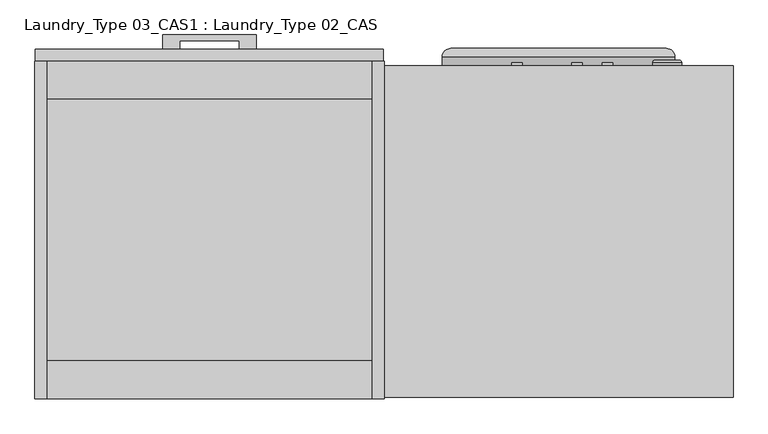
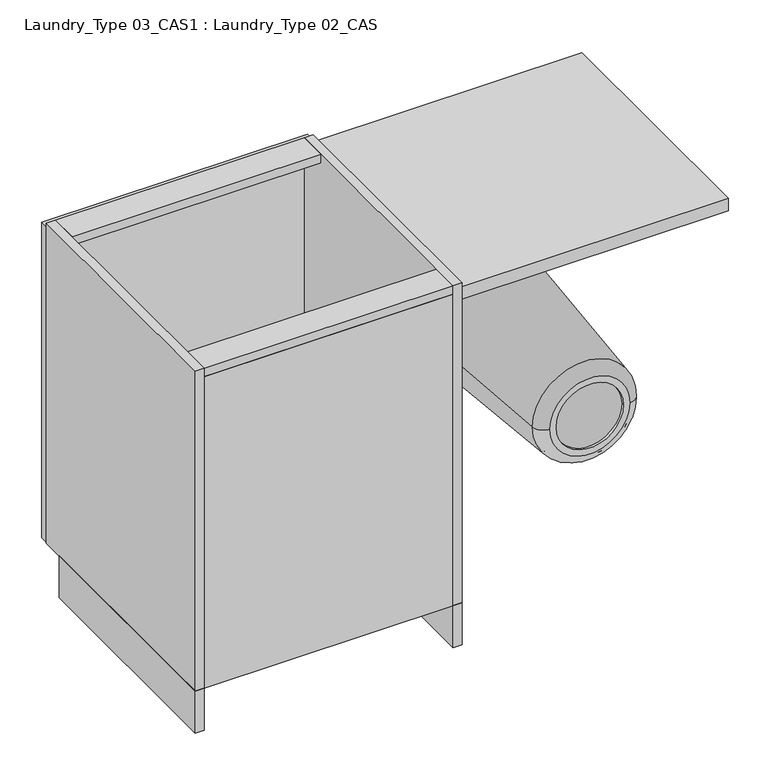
"""IFC4 building model written with IfcOpenShell, lengths in millimetres: furniture geometry, Laundry_Type 03_CAS1 : Laundry_Type 02_CAS."""

from ifc_helpers import new_model, si_unit, point, frame, frame_2d, origin, origin_with_axes, place, context, project, spatial, polyline, circle_curve, ellipse_curve, trimmed, segment, composite_curve, outline, extrude, faceted_brep, source, transform, mapped, element, save
from ifc_brep_helpers import plane_surface, cylinder_surface, revolved_surface, advanced_brep


def laundry_type_03_cas1_laundry_type_02_cas_1c30483e(model_context):
    return source(origin(), model_context, "Body", "SolidModel", [
        extrude(outline(polyline([(1585.0, 53.039124), (1745.0, 53.039124), (1745.0, 28.039124), (1716.0, 28.039124), (1716.0, 43.039124), (1614.0, 43.039124), (1614.0, 28.039124), (1585.0, 28.039124), (1585.0, 53.039124)])), frame((0.0, 0.0, 792.5), z_axis=(0.0, 0.0, 1.0), x_axis=(1.0, 0.0, 0.0)), (0.0, 0.0, 1.0), 15.0),
        extrude(outline(polyline([(1964.0, 28.039124), (1964.0, 8.039124), (1366.0, 8.039124), (1366.0, 28.039124), (1964.0, 28.039124)])), frame((0.0, 0.0, 100.0), z_axis=(0.0, 0.0, 1.0), x_axis=(1.0, 0.0, 0.0)), (0.0, 0.0, 1.0), 750.0),
        extrude(outline(polyline([(1365.0, -41.960876), (1965.0, -41.960876), (1965.0, -571.960876), (1945.0, -571.960876), (1945.0, -61.960876), (1385.0, -61.960876), (1385.0, -571.960876), (1365.0, -571.960876), (1365.0, -41.960876)])), origin_with_axes(), (0.0, 0.0, 1.0), 100.0),
        extrude(outline(polyline([(1945.0, -571.960876), (1945.0, 8.039124), (1965.0, 8.039124), (1965.0, -571.960876), (1945.0, -571.960876)])), frame((0.0, 0.0, 100.0), z_axis=(0.0, 0.0, 1.0), x_axis=(1.0, 0.0, 0.0)), (0.0, 0.0, 1.0), 760.0),
        extrude(outline(polyline([(1365.0, -571.960876), (1365.0, 8.039124), (1385.0, 8.039124), (1385.0, -571.960876), (1365.0, -571.960876)])), frame((0.0, 0.0, 100.0), z_axis=(0.0, 0.0, 1.0), x_axis=(1.0, 0.0, 0.0)), (0.0, 0.0, 1.0), 760.0),
        extrude(outline(polyline([(1945.0, -551.960876), (1945.0, -571.960876), (1385.0, -571.960876), (1385.0, -551.960876), (1945.0, -551.960876)])), frame((0.0, 0.0, 100.0), z_axis=(0.0, 0.0, 1.0), x_axis=(1.0, 0.0, 0.0)), (0.0, 0.0, 1.0), 740.0),
        extrude(outline(polyline([(1945.0, -551.960876), (1385.0, -551.960876), (1385.0, 8.039124), (1945.0, 8.039124), (1945.0, -551.960876)])), frame((0.0, 0.0, 100.0), z_axis=(0.0, 0.0, 1.0), x_axis=(1.0, 0.0, 0.0)), (0.0, 0.0, 1.0), 20.0),
        extrude(outline(polyline([(1945.0, -571.960876), (1385.0, -571.960876), (1385.0, -506.960876), (1945.0, -506.960876), (1945.0, -571.960876)])), frame((0.0, 0.0, 840.0), z_axis=(0.0, 0.0, 1.0), x_axis=(1.0, 0.0, 0.0)), (0.0, 0.0, 1.0), 20.0),
        extrude(outline(polyline([(1385.0, -56.960876), (1385.0, 8.039124), (1945.0, 8.039124), (1945.0, -56.960876), (1385.0, -56.960876)])), frame((0.0, 0.0, 840.0), z_axis=(0.0, 0.0, 1.0), x_axis=(1.0, 0.0, 0.0)), (0.0, 0.0, 1.0), 20.0),
        extrude(outline(polyline([(2465.0, -0.085876), (2450.0, -0.085876), (2450.0, 4.914124), (2465.0, 4.914124), (2465.0, -0.085876)])), frame((0.0, 0.0, 374.6157103), z_axis=(0.0, 0.0, 1.0), x_axis=(1.0, 0.0, 0.0)), (0.0, 0.0, 1.0), 100.0),
        advanced_brep(
        [(2080.0, 29.914124, 425.0), (2450.0, 29.914124, 425.0), (2135.0, 29.914124, 425.0), (2395.0, 29.914124, 425.0), (2065.0, -0.085876, 425.0), (2465.0, -0.085876, 425.0), (2135.0, -0.085876, 425.0), (2395.0, -0.085876, 425.0), (2065.0, 14.91414, 425.0), (2465.0, 14.914124, 425.0)],
        [
            (0, 1, circle_curve(frame((2265.0, 29.914124, 425.0), z_axis=(0.0, 1.0, 0.0), x_axis=(0.9999999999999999, 0.0, 0.0)), 185.0)),
            (1, 0, circle_curve(frame((2265.0, 29.914124, 425.0), z_axis=(0.0, 1.0, 0.0), x_axis=(-0.9999999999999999, 0.0, 0.0)), 185.0)),
            (2, 3, circle_curve(frame((2265.0, 29.914124, 425.0), z_axis=(0.0, -1.0, 0.0), x_axis=(0.9999999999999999, 0.0, 0.0)), 130.0)),
            (3, 2, circle_curve(frame((2265.0, 29.914124, 425.0), z_axis=(0.0, -1.0, 0.0), x_axis=(0.9999999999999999, 0.0, 0.0)), 130.0)),
            (4, 5, circle_curve(frame((2265.0, -0.085876, 425.0), z_axis=(0.0, -1.0, 0.0), x_axis=(0.9999999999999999, 0.0, 0.0)), 200.0)),
            (5, 4, circle_curve(frame((2265.0, -0.085876, 425.0), z_axis=(0.0, -1.0, 0.0), x_axis=(0.9999999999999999, 0.0, 0.0)), 200.0)),
            (6, 7, circle_curve(frame((2265.0, -0.085876, 425.0), z_axis=(0.0, 1.0, 0.0), x_axis=(0.9999999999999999, 0.0, 0.0)), 130.0)),
            (7, 6, circle_curve(frame((2265.0, -0.085876, 425.0), z_axis=(0.0, 1.0, 0.0), x_axis=(0.9999999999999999, 0.0, 0.0)), 130.0)),
            (4, 8),
            (8, 9, circle_curve(frame((2265.0, 14.914124, 425.0), z_axis=(0.0, -1.0, 0.0), x_axis=(0.9999999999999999, 0.0, 0.0)), 200.0)),
            (9, 5),
            (9, 8, circle_curve(frame((2265.0, 14.914124, 425.0), z_axis=(0.0, -1.0, 0.0), x_axis=(0.9999999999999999, 0.0, 0.0)), 200.0)),
            (3, 7),
            (6, 2),
            (8, 0, circle_curve(frame((2080.0, 14.914124, 425.0), z_axis=(0.0, 0.0, -1.0), x_axis=(0.9999999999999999, 0.0, 0.0)), 15.0)),
            (1, 9, circle_curve(frame((2450.0, 14.914124, 425.0), z_axis=(0.0, 0.0, -1.0), x_axis=(-0.9999999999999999, 0.0, 0.0)), 15.0)),
        ],
        [
            plane_surface(frame((2465.0, 29.914124, 425.0), z_axis=(0.0, 1.0, 0.0), x_axis=(0.0, 0.0, 1.0))),
            plane_surface(frame((2465.0, -0.085876, 425.0), z_axis=(0.0, -1.0, 0.0), x_axis=(0.0, 0.0, -1.0))),
            cylinder_surface(frame((2265.0, -0.085876, 425.0), z_axis=(0.0, 0.9999999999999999, 0.0), x_axis=(0.9999999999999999, 0.0, 0.0)), 200.0),
            revolved_surface(polyline([(2395.0, -0.085876, 425.0), (2395.0, 29.914123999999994, 425.0)]), (2265.0, -0.085876, 425.0), (0.0, -0.9999999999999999, 0.0)),
            revolved_surface(trimmed(ellipse_curve(frame((2080.0, 14.914124, 425.0), z_axis=(0.0, 0.0, -1.0), x_axis=(0.9999999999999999, 0.0, 0.0)), 15.0, 15.0), [point((2065.0, 14.914124, 425.0))], [point((2080.0, 29.914124, 425.0))], True, "CARTESIAN"), (2265.0, 29.914124, 425.0), (0.0, 0.9999999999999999, 0.0)),
            revolved_surface(trimmed(ellipse_curve(frame((2450.0, 14.914124, 425.0), z_axis=(0.0, 0.0, 1.0), x_axis=(-0.9999999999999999, 0.0, 0.0)), 15.0, 15.0), [point((2465.0, 14.914124, 425.0))], [point((2450.0, 29.914124, 425.0))], True, "CARTESIAN"), (2265.0, 29.914124, 425.0), (0.0, 0.9999999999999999, 0.0)),
        ],
        [
            (0, [[1, 2], [3, 4]]),
            (1, [[5, 6], [7, 8]]),
            (2, [[9, 10, 11, -5]]),
            (2, [[-11, 12, -9, -6]]),
            (3, [[13, -7, 14, -4]]),
            (3, [[-14, -8, -13, -3]]),
            (4, [[-10, 15, -2, 16]]),
            (5, [[-1, -15, -12, -16]]),
        ],
    ),
        extrude(outline(composite_curve([segment(trimmed(circle_curve(frame_2d((425.0, 2265.0)), 130.0), [point((425.0, 2135.0))], [point((425.0, 2395.0))], False, "CARTESIAN"), True, "CONTINUOUS"), segment(trimmed(circle_curve(frame_2d((425.0, 2265.0)), 130.0), [point((425.0, 2395.0))], [point((425.0, 2135.0))], False, "CARTESIAN"), True, "CONTINUOUS")], self_intersect=False)), frame((0.0, -0.085876, 0.0), z_axis=(0.0, 1.0, 0.0), x_axis=(0.0, 0.0, 1.0)), (0.0, 0.0, 1.0), 30.0),
        extrude(outline(polyline([(2565.0, -570.085876), (1965.0, -570.085876), (1965.0, -0.085876), (2565.0, -0.085876), (2565.0, -570.085876)])), frame((0.0, 0.0, 820.0), z_axis=(0.0, 0.0, 1.0), x_axis=(1.0, 0.0, 0.0)), (0.0, 0.0, 1.0), 30.0),
        faceted_brep([(1970.0, -0.085876, 815.0), (2160.0, -0.085876, 815.0), (2160.0, -0.085876, 705.0), (1970.0, -0.085876, 705.0), (2165.0, -20.085876, 820.0), (1965.0, -20.085876, 820.0), (1965.0, -20.085876, 700.0), (2165.0, -20.085876, 700.0), (2165.0, -2.027875, 820.0), (1965.0, -2.027875, 820.0), (1965.0, -2.027875, 700.0), (2165.0, -2.027875, 700.0), (1970.0, -2.027875, 815.0), (1970.0, -2.027875, 705.0), (2160.0, -2.027875, 705.0), (2160.0, -2.027875, 815.0)], [[[0, 1, 2, 3]], [[4, 5, 6, 7]], [[4, 8, 9, 5]], [[5, 9, 10, 6]], [[6, 10, 11, 7]], [[7, 11, 8, 4]], [[12, 0, 3, 13]], [[3, 2, 14, 13]], [[2, 1, 15, 14]], [[12, 15, 1, 0]], [[8, 11, 10, 9], [13, 14, 15, 12]]]),
        extrude(outline(composite_curve([segment(trimmed(circle_curve(frame_2d((780.0, 2265.0)), 2.0), [point((780.0, 2263.0))], [point((780.0, 2267.0))], False, "CARTESIAN"), True, "CONTINUOUS"), segment(trimmed(circle_curve(frame_2d((780.0, 2265.0)), 2.0), [point((780.0, 2267.0))], [point((780.0, 2263.0))], False, "CARTESIAN"), True, "CONTINUOUS")], self_intersect=False)), frame((0.0, -20.085876, 0.0), z_axis=(0.0, 1.0, 0.0), x_axis=(0.0, 0.0, 1.0)), (0.0, 0.0, 1.0), 20.0),
        extrude(outline(composite_curve([segment(trimmed(circle_curve(frame_2d((770.0, 2265.0)), 2.0), [point((770.0, 2263.0))], [point((770.0, 2267.0))], False, "CARTESIAN"), True, "CONTINUOUS"), segment(trimmed(circle_curve(frame_2d((770.0, 2265.0)), 2.0), [point((770.0, 2267.0))], [point((770.0, 2263.0))], False, "CARTESIAN"), True, "CONTINUOUS")], self_intersect=False)), frame((0.0, -20.085876, 0.0), z_axis=(0.0, 1.0, 0.0), x_axis=(0.0, 0.0, 1.0)), (0.0, 0.0, 1.0), 20.0),
        extrude(outline(composite_curve([segment(trimmed(circle_curve(frame_2d((760.0, 2265.0)), 2.0), [point((760.0, 2263.0))], [point((760.0, 2267.0))], False, "CARTESIAN"), True, "CONTINUOUS"), segment(trimmed(circle_curve(frame_2d((760.0, 2265.0)), 2.0), [point((760.0, 2267.0))], [point((760.0, 2263.0))], False, "CARTESIAN"), True, "CONTINUOUS")], self_intersect=False)), frame((0.0, -20.085876, 0.0), z_axis=(0.0, 1.0, 0.0), x_axis=(0.0, 0.0, 1.0)), (0.0, 0.0, 1.0), 20.0),
        extrude(outline(composite_curve([segment(trimmed(circle_curve(frame_2d((745.0, 2265.0)), 2.0), [point((745.0, 2263.0))], [point((745.0, 2267.0))], False, "CARTESIAN"), True, "CONTINUOUS"), segment(trimmed(circle_curve(frame_2d((745.0, 2265.0)), 2.0), [point((745.0, 2267.0))], [point((745.0, 2263.0))], False, "CARTESIAN"), True, "CONTINUOUS")], self_intersect=False)), frame((0.0, -20.085876, 0.0), z_axis=(0.0, 1.0, 0.0), x_axis=(0.0, 0.0, 1.0)), (0.0, 0.0, 1.0), 20.0),
        extrude(outline(composite_curve([segment(trimmed(circle_curve(frame_2d((727.4920971, 2265.0)), 2.0), [point((727.4920971, 2263.0))], [point((727.4920971, 2267.0))], False, "CARTESIAN"), True, "CONTINUOUS"), segment(trimmed(circle_curve(frame_2d((727.4920971, 2265.0)), 2.0), [point((727.4920971, 2267.0))], [point((727.4920971, 2263.0))], False, "CARTESIAN"), True, "CONTINUOUS")], self_intersect=False)), frame((0.0, -20.085876, 0.0), z_axis=(0.0, 1.0, 0.0), x_axis=(0.0, 0.0, 1.0)), (0.0, 0.0, 1.0), 20.0),
        extrude(outline(composite_curve([segment(trimmed(circle_curve(frame_2d((714.2434315, 2265.0)), 2.0), [point((714.2434315, 2263.0))], [point((714.2434315, 2267.0))], False, "CARTESIAN"), True, "CONTINUOUS"), segment(trimmed(circle_curve(frame_2d((714.2434315, 2265.0)), 2.0), [point((714.2434315, 2267.0))], [point((714.2434315, 2263.0))], False, "CARTESIAN"), True, "CONTINUOUS")], self_intersect=False)), frame((0.0, -20.085876, 0.0), z_axis=(0.0, 1.0, 0.0), x_axis=(0.0, 0.0, 1.0)), (0.0, 0.0, 1.0), 20.0),
        extrude(outline(polyline([(2358.3333333, -0.085876), (2358.3333333, -20.085876), (2353.3333333, -20.085876), (2353.3333333, -0.085876), (2358.3333333, -0.085876)])), frame((0.0, 0.0, 730.0), z_axis=(0.0, 0.0, 1.0), x_axis=(1.0, 0.0, 0.0)), (0.0, 0.0, 1.0), 45.0),
        extrude(outline(polyline([(2512.5211292, -0.085876), (2512.5211292, -20.085876), (2507.5211292, -20.085876), (2507.5211292, -0.085876), (2512.5211292, -0.085876)])), frame((0.0, 0.0, 760.0), z_axis=(0.0, 0.0, 1.0), x_axis=(1.0, 0.0, 0.0)), (0.0, 0.0, 1.0), 45.0),
        extrude(outline(composite_curve([segment(trimmed(circle_curve(frame_2d((727.4920971, 2507.5211292)), 2.0), [point((727.4920971, 2505.5211292))], [point((727.4920971, 2509.5211292))], False, "CARTESIAN"), True, "CONTINUOUS"), segment(trimmed(circle_curve(frame_2d((727.4920971, 2507.5211292)), 2.0), [point((727.4920971, 2509.5211292))], [point((727.4920971, 2505.5211292))], False, "CARTESIAN"), True, "CONTINUOUS")], self_intersect=False)), frame((0.0, -20.085876, 0.0), z_axis=(0.0, 1.0, 0.0), x_axis=(0.0, 0.0, 1.0)), (0.0, 0.0, 1.0), 20.0),
        extrude(outline(composite_curve([segment(trimmed(circle_curve(frame_2d((714.2434315, 2507.5211292)), 2.0), [point((714.2434315, 2505.5211292))], [point((714.2434315, 2509.5211292))], False, "CARTESIAN"), True, "CONTINUOUS"), segment(trimmed(circle_curve(frame_2d((714.2434315, 2507.5211292)), 2.0), [point((714.2434315, 2509.5211292))], [point((714.2434315, 2505.5211292))], False, "CARTESIAN"), True, "CONTINUOUS")], self_intersect=False)), frame((0.0, -20.085876, 0.0), z_axis=(0.0, 1.0, 0.0), x_axis=(0.0, 0.0, 1.0)), (0.0, 0.0, 1.0), 20.0),
        advanced_brep(
        [(2431.6666667, 9.914124, 760.0), (2471.6666667, 9.914124, 760.0), (2476.6666667, -0.085876, 760.0), (2426.6666667, -0.085876, 760.0), (2476.6666667, 4.9141283, 760.0), (2426.6666667, 4.914124, 760.0)],
        [
            (0, 1, circle_curve(frame((2451.6666667, 9.914124, 760.0), z_axis=(0.0, 1.0, 0.0), x_axis=(1.0, 0.0, 0.0)), 20.0)),
            (1, 0, circle_curve(frame((2451.6666667, 9.914124, 760.0), z_axis=(0.0, 1.0, 0.0), x_axis=(-1.0, 0.0, 0.0)), 20.0)),
            (2, 3, circle_curve(frame((2451.6666667, -0.085876, 760.0), z_axis=(0.0, -1.0, 0.0), x_axis=(1.0, 0.0, 0.0)), 25.0)),
            (3, 2, circle_curve(frame((2451.6666667, -0.085876, 760.0), z_axis=(0.0, -1.0, 0.0), x_axis=(1.0, 0.0, 0.0)), 25.0)),
            (2, 4),
            (4, 5, circle_curve(frame((2451.6666667, 4.914124, 760.0), z_axis=(0.0, -1.0, 0.0), x_axis=(1.0, 0.0, 0.0)), 25.0)),
            (5, 3),
            (5, 4, circle_curve(frame((2451.6666667, 4.914124, 760.0), z_axis=(0.0, -1.0, 0.0), x_axis=(1.0, 0.0, 0.0)), 25.0)),
            (5, 0, circle_curve(frame((2431.6666667, 4.914124, 760.0), z_axis=(0.0, 0.0, -1.0), x_axis=(1.0, 0.0, 0.0)), 5.0)),
            (1, 4, circle_curve(frame((2471.6666667, 4.914124, 760.0), z_axis=(0.0, 0.0, -1.0), x_axis=(-1.0, 0.0, 0.0)), 5.0)),
        ],
        [
            plane_surface(frame((2476.6666667, 9.914124, 760.0), z_axis=(0.0, 1.0, 0.0), x_axis=(0.0, 0.0, 1.0))),
            plane_surface(frame((2476.6666667, -0.085876, 760.0), z_axis=(0.0, -1.0, 0.0), x_axis=(0.0, 0.0, -1.0))),
            cylinder_surface(frame((2451.6666667, -0.085876, 760.0), z_axis=(0.0, 1.0, 0.0), x_axis=(1.0, 0.0, 0.0)), 25.0),
            revolved_surface(trimmed(ellipse_curve(frame((2431.6666667, 4.914124, 760.0), z_axis=(0.0, 0.0, -1.0), x_axis=(1.0, 0.0, 0.0)), 5.0, 5.0), [point((2426.6666667, 4.914124, 760.0))], [point((2431.6666667, 9.914124, 760.0))], True, "CARTESIAN"), (2451.6666667, 9.914124, 760.0), (0.0, 1.0, 0.0)),
            revolved_surface(trimmed(ellipse_curve(frame((2471.6666667, 4.914124, 760.0), z_axis=(0.0, 0.0, 1.0), x_axis=(-1.0, 0.0, 0.0)), 5.0, 5.0), [point((2476.6666667, 4.914124, 760.0))], [point((2471.6666667, 9.914124, 760.0))], True, "CARTESIAN"), (2451.6666667, 9.914124, 760.0), (0.0, 1.0, 0.0)),
        ],
        [
            (0, [[1, 2]]),
            (1, [[3, 4]]),
            (2, [[5, 6, 7, -3]]),
            (2, [[-7, 8, -5, -4]]),
            (3, [[-8, 9, -2, 10]]),
            (4, [[-1, -9, -6, -10]]),
        ],
    ),
        extrude(outline(polyline([(2203.0384758, 4.914124), (2203.0384758, -0.085876), (2184.8257579, -0.085876), (2184.8257579, 4.914124), (2203.0384758, 4.914124)])), frame((0.0, 0.0, 725.0), z_axis=(0.0, 0.0, 1.0), x_axis=(1.0, 0.0, 0.0)), (0.0, 0.0, 1.0), 5.0),
        extrude(outline(polyline([(2203.0384758, 4.914124), (2203.0384758, -0.085876), (2184.8257579, -0.085876), (2184.8257579, 4.914124), (2203.0384758, 4.914124)])), frame((0.0, 0.0, 711.6933336), z_axis=(0.0, 0.0, 1.0), x_axis=(1.0, 0.0, 0.0)), (0.0, 0.0, 1.0), 5.0),
        extrude(outline(polyline([(2305.5384758, 4.914124), (2305.5384758, -0.085876), (2287.3257579, -0.085876), (2287.3257579, 4.914124), (2305.5384758, 4.914124)])), frame((0.0, 0.0, 711.6933336), z_axis=(0.0, 0.0, 1.0), x_axis=(1.0, 0.0, 0.0)), (0.0, 0.0, 1.0), 5.0),
        extrude(outline(polyline([(2305.5384758, 4.914124), (2305.5384758, -0.085876), (2287.3257579, -0.085876), (2287.3257579, 4.914124), (2305.5384758, 4.914124)])), frame((0.0, 0.0, 725.0), z_axis=(0.0, 0.0, 1.0), x_axis=(1.0, 0.0, 0.0)), (0.0, 0.0, 1.0), 5.0),
        extrude(outline(polyline([(2305.5384758, 4.914124), (2305.5384758, -0.085876), (2287.3257579, -0.085876), (2287.3257579, 4.914124), (2305.5384758, 4.914124)])), frame((0.0, 0.0, 741.6933336), z_axis=(0.0, 0.0, 1.0), x_axis=(1.0, 0.0, 0.0)), (0.0, 0.0, 1.0), 5.0),
        extrude(outline(polyline([(2358.3333333, 4.914124), (2358.3333333, -0.085876), (2340.1206154, -0.085876), (2340.1206154, 4.914124), (2358.3333333, 4.914124)])), frame((0.0, 0.0, 711.6933336), z_axis=(0.0, 0.0, 1.0), x_axis=(1.0, 0.0, 0.0)), (0.0, 0.0, 1.0), 5.0),
        advanced_brep(
        [(2170.0, -0.085876, 815.0), (2560.0, -0.085876, 815.0), (2560.0, -0.085876, 705.0), (2170.0, -0.085876, 705.0), (2476.6666667, -0.085876, 760.0), (2426.6666667, -0.085876, 760.0), (2512.5211292, -0.085876, 805.0), (2507.5211292, -0.085876, 805.0), (2507.5211292, -0.085876, 760.0), (2512.5211292, -0.085876, 760.0), (2353.3333333, -0.085876, 775.0), (2353.3333333, -0.085876, 730.0), (2358.3333333, -0.085876, 730.0), (2358.3333333, -0.085876, 775.0), (2340.1206154, -0.085876, 711.6933336), (2358.3333333, -0.085876, 711.6933336), (2358.3333333, -0.085876, 716.6933336), (2340.1206154, -0.085876, 716.6933336), (2267.0, -0.085876, 760.0), (2263.0, -0.085876, 760.0), (2287.3257579, -0.085876, 741.6933336), (2305.5384758, -0.085876, 741.6933336), (2305.5384758, -0.085876, 746.6933336), (2287.3257579, -0.085876, 746.6933336), (2287.3257579, -0.085876, 725.0), (2305.5384758, -0.085876, 725.0), (2305.5384758, -0.085876, 730.0), (2287.3257579, -0.085876, 730.0), (2287.3257579, -0.085876, 711.6933336), (2305.5384758, -0.085876, 711.6933336), (2305.5384758, -0.085876, 716.6933336), (2287.3257579, -0.085876, 716.6933336), (2184.8257579, -0.085876, 725.0), (2203.0384758, -0.085876, 725.0), (2203.0384758, -0.085876, 730.0), (2184.8257579, -0.085876, 730.0), (2184.8257579, -0.085876, 711.6933336), (2203.0384758, -0.085876, 711.6933336), (2203.0384758, -0.085876, 716.6933336), (2184.8257579, -0.085876, 716.6933336), (2267.0, -0.085876, 770.0), (2263.0, -0.085876, 770.0), (2267.0, -0.085876, 780.0), (2263.0, -0.085876, 780.0), (2267.0, -0.085876, 745.0), (2263.0, -0.085876, 745.0), (2267.0, -0.085876, 727.4920971), (2263.0, -0.085876, 727.4920971), (2267.0, -0.085876, 714.2434315), (2263.0, -0.085876, 714.2434315), (2509.5211292, -0.085876, 727.4920971), (2505.5211292, -0.085876, 727.4920971), (2509.5211292, -0.085876, 714.2434315), (2505.5211292, -0.085876, 714.2434315), (2565.0, -20.085876, 820.0), (2165.0, -20.085876, 820.0), (2165.0, -20.085876, 700.0), (2565.0, -20.085876, 700.0), (2426.6666667, -20.085876, 760.0), (2476.6666667, -20.085876, 760.0), (2512.5211292, -20.085876, 760.0), (2507.5211292, -20.085876, 760.0), (2507.5211292, -20.085876, 805.0), (2512.5211292, -20.085876, 805.0), (2358.3333333, -20.085876, 775.0), (2358.3333333, -20.085876, 730.0), (2353.3333333, -20.085876, 730.0), (2353.3333333, -20.085876, 775.0), (2340.1206154, -20.085876, 716.6933336), (2358.3333333, -20.085876, 716.6933336), (2358.3333333, -20.085876, 711.6933336), (2340.1206154, -20.085876, 711.6933336), (2263.0, -20.085876, 760.0), (2267.0, -20.085876, 760.0), (2287.3257579, -20.085876, 746.6933336), (2305.5384758, -20.085876, 746.6933336), (2305.5384758, -20.085876, 741.6933336), (2287.3257579, -20.085876, 741.6933336), (2287.3257579, -20.085876, 730.0), (2305.5384758, -20.085876, 730.0), (2305.5384758, -20.085876, 725.0), (2287.3257579, -20.085876, 725.0), (2287.3257579, -20.085876, 716.6933336), (2305.5384758, -20.085876, 716.6933336), (2305.5384758, -20.085876, 711.6933336), (2287.3257579, -20.085876, 711.6933336), (2184.8257579, -20.085876, 730.0), (2203.0384758, -20.085876, 730.0), (2203.0384758, -20.085876, 725.0), (2184.8257579, -20.085876, 725.0), (2184.8257579, -20.085876, 716.6933336), (2203.0384758, -20.085876, 716.6933336), (2203.0384758, -20.085876, 711.6933336), (2184.8257579, -20.085876, 711.6933336), (2263.0, -20.085876, 770.0), (2267.0, -20.085876, 770.0), (2263.0, -20.085876, 780.0), (2267.0, -20.085876, 780.0), (2263.0, -20.085876, 745.0), (2267.0, -20.085876, 745.0), (2263.0, -20.085876, 727.4920971), (2267.0, -20.085876, 727.4920971), (2263.0, -20.085876, 714.2434315), (2267.0, -20.085876, 714.2434315), (2505.5211292, -20.085876, 727.4920971), (2509.5211292, -20.085876, 727.4920971), (2505.5211292, -20.085876, 714.2434315), (2509.5211292, -20.085876, 714.2434315), (2565.0, -2.027875, 820.0), (2165.0, -2.027875, 820.0), (2165.0, -2.027875, 700.0), (2565.0, -2.027875, 700.0), (2170.0, -2.027875, 815.0), (2170.0, -2.027875, 705.0), (2560.0, -2.027875, 705.0), (2560.0, -2.027875, 815.0)],
        [
            (0, 1),
            (1, 2),
            (2, 3),
            (3, 0),
            (4, 5, circle_curve(frame((2451.6666667, -0.085876, 760.0), z_axis=(0.0, -1.0, 0.0), x_axis=(1.0, 0.0, 0.0)), 25.0)),
            (5, 4, circle_curve(frame((2451.6666667, -0.085876, 760.0), z_axis=(0.0, -1.0, 0.0), x_axis=(1.0, 0.0, 0.0)), 25.0)),
            (6, 7),
            (7, 8),
            (8, 9),
            (9, 6),
            (10, 11),
            (11, 12),
            (12, 13),
            (13, 10),
            (14, 15),
            (15, 16),
            (16, 17),
            (17, 14),
            (18, 19, circle_curve(frame((2265.0, -0.085876, 760.0), z_axis=(0.0, -1.0, 0.0), x_axis=(1.0, 0.0, 0.0)), 2.0)),
            (19, 18, circle_curve(frame((2265.0, -0.085876, 760.0), z_axis=(0.0, -1.0, 0.0), x_axis=(1.0, 0.0, 0.0)), 2.0)),
            (20, 21),
            (21, 22),
            (22, 23),
            (23, 20),
            (24, 25),
            (25, 26),
            (26, 27),
            (27, 24),
            (28, 29),
            (29, 30),
            (30, 31),
            (31, 28),
            (32, 33),
            (33, 34),
            (34, 35),
            (35, 32),
            (36, 37),
            (37, 38),
            (38, 39),
            (39, 36),
            (40, 41, circle_curve(frame((2265.0, -0.085876, 770.0), z_axis=(0.0, -1.0, 0.0), x_axis=(1.0, 0.0, 0.0)), 2.0)),
            (41, 40, circle_curve(frame((2265.0, -0.085876, 770.0), z_axis=(0.0, -1.0, 0.0), x_axis=(1.0, 0.0, 0.0)), 2.0)),
            (42, 43, circle_curve(frame((2265.0, -0.085876, 780.0), z_axis=(0.0, -1.0, 0.0), x_axis=(1.0, 0.0, 0.0)), 2.0)),
            (43, 42, circle_curve(frame((2265.0, -0.085876, 780.0), z_axis=(0.0, -1.0, 0.0), x_axis=(1.0, 0.0, 0.0)), 2.0)),
            (44, 45, circle_curve(frame((2265.0, -0.085876, 745.0), z_axis=(0.0, -1.0, 0.0), x_axis=(1.0, 0.0, 0.0)), 2.0)),
            (45, 44, circle_curve(frame((2265.0, -0.085876, 745.0), z_axis=(0.0, -1.0, 0.0), x_axis=(1.0, 0.0, 0.0)), 2.0)),
            (46, 47, circle_curve(frame((2265.0, -0.085876, 727.4920971), z_axis=(0.0, -1.0, 0.0), x_axis=(1.0, 0.0, 0.0)), 2.0)),
            (47, 46, circle_curve(frame((2265.0, -0.085876, 727.4920971), z_axis=(0.0, -1.0, 0.0), x_axis=(1.0, 0.0, 0.0)), 2.0)),
            (48, 49, circle_curve(frame((2265.0, -0.085876, 714.2434315), z_axis=(0.0, -1.0, 0.0), x_axis=(1.0, 0.0, 0.0)), 2.0)),
            (49, 48, circle_curve(frame((2265.0, -0.085876, 714.2434315), z_axis=(0.0, -1.0, 0.0), x_axis=(1.0, 0.0, 0.0)), 2.0)),
            (50, 51, circle_curve(frame((2507.5211292, -0.085876, 727.4920971), z_axis=(0.0, -1.0, 0.0), x_axis=(1.0, 0.0, 0.0)), 2.0)),
            (51, 50, circle_curve(frame((2507.5211292, -0.085876, 727.4920971), z_axis=(0.0, -1.0, 0.0), x_axis=(1.0, 0.0, 0.0)), 2.0)),
            (52, 53, circle_curve(frame((2507.5211292, -0.085876, 714.2434315), z_axis=(0.0, -1.0, 0.0), x_axis=(1.0, 0.0, 0.0)), 2.0)),
            (53, 52, circle_curve(frame((2507.5211292, -0.085876, 714.2434315), z_axis=(0.0, -1.0, 0.0), x_axis=(1.0, 0.0, 0.0)), 2.0)),
            (54, 55),
            (55, 56),
            (56, 57),
            (57, 54),
            (58, 59, circle_curve(frame((2451.6666667, -20.085876, 760.0), z_axis=(0.0, 1.0, 0.0), x_axis=(1.0, 0.0, 0.0)), 25.0)),
            (59, 58, circle_curve(frame((2451.6666667, -20.085876, 760.0), z_axis=(0.0, 1.0, 0.0), x_axis=(1.0, 0.0, 0.0)), 25.0)),
            (60, 61),
            (61, 62),
            (62, 63),
            (63, 60),
            (64, 65),
            (65, 66),
            (66, 67),
            (67, 64),
            (68, 69),
            (69, 70),
            (70, 71),
            (71, 68),
            (72, 73, circle_curve(frame((2265.0, -20.085876, 760.0), z_axis=(0.0, 1.0, 0.0), x_axis=(1.0, 0.0, 0.0)), 2.0)),
            (73, 72, circle_curve(frame((2265.0, -20.085876, 760.0), z_axis=(0.0, 1.0, 0.0), x_axis=(1.0, 0.0, 0.0)), 2.0)),
            (74, 75),
            (75, 76),
            (76, 77),
            (77, 74),
            (78, 79),
            (79, 80),
            (80, 81),
            (81, 78),
            (82, 83),
            (83, 84),
            (84, 85),
            (85, 82),
            (86, 87),
            (87, 88),
            (88, 89),
            (89, 86),
            (90, 91),
            (91, 92),
            (92, 93),
            (93, 90),
            (94, 95, circle_curve(frame((2265.0, -20.085876, 770.0), z_axis=(0.0, 1.0, 0.0), x_axis=(1.0, 0.0, 0.0)), 2.0)),
            (95, 94, circle_curve(frame((2265.0, -20.085876, 770.0), z_axis=(0.0, 1.0, 0.0), x_axis=(1.0, 0.0, 0.0)), 2.0)),
            (96, 97, circle_curve(frame((2265.0, -20.085876, 780.0), z_axis=(0.0, 1.0, 0.0), x_axis=(1.0, 0.0, 0.0)), 2.0)),
            (97, 96, circle_curve(frame((2265.0, -20.085876, 780.0), z_axis=(0.0, 1.0, 0.0), x_axis=(1.0, 0.0, 0.0)), 2.0)),
            (98, 99, circle_curve(frame((2265.0, -20.085876, 745.0), z_axis=(0.0, 1.0, 0.0), x_axis=(1.0, 0.0, 0.0)), 2.0)),
            (99, 98, circle_curve(frame((2265.0, -20.085876, 745.0), z_axis=(0.0, 1.0, 0.0), x_axis=(1.0, 0.0, 0.0)), 2.0)),
            (100, 101, circle_curve(frame((2265.0, -20.085876, 727.4920971), z_axis=(0.0, 1.0, 0.0), x_axis=(1.0, 0.0, 0.0)), 2.0)),
            (101, 100, circle_curve(frame((2265.0, -20.085876, 727.4920971), z_axis=(0.0, 1.0, 0.0), x_axis=(1.0, 0.0, 0.0)), 2.0)),
            (102, 103, circle_curve(frame((2265.0, -20.085876, 714.2434315), z_axis=(0.0, 1.0, 0.0), x_axis=(1.0, 0.0, 0.0)), 2.0)),
            (103, 102, circle_curve(frame((2265.0, -20.085876, 714.2434315), z_axis=(0.0, 1.0, 0.0), x_axis=(1.0, 0.0, 0.0)), 2.0)),
            (104, 105, circle_curve(frame((2507.5211292, -20.085876, 727.4920971), z_axis=(0.0, 1.0, 0.0), x_axis=(1.0, 0.0, 0.0)), 2.0)),
            (105, 104, circle_curve(frame((2507.5211292, -20.085876, 727.4920971), z_axis=(0.0, 1.0, 0.0), x_axis=(1.0, 0.0, 0.0)), 2.0)),
            (106, 107, circle_curve(frame((2507.5211292, -20.085876, 714.2434315), z_axis=(0.0, 1.0, 0.0), x_axis=(1.0, 0.0, 0.0)), 2.0)),
            (107, 106, circle_curve(frame((2507.5211292, -20.085876, 714.2434315), z_axis=(0.0, 1.0, 0.0), x_axis=(1.0, 0.0, 0.0)), 2.0)),
            (54, 108),
            (108, 109),
            (109, 55),
            (109, 110),
            (110, 56),
            (110, 111),
            (111, 57),
            (111, 108),
            (5, 58),
            (59, 4),
            (9, 60),
            (63, 6),
            (62, 7),
            (61, 8),
            (13, 64),
            (67, 10),
            (66, 11),
            (65, 12),
            (17, 68),
            (71, 14),
            (70, 15),
            (69, 16),
            (19, 72),
            (73, 18),
            (23, 74),
            (77, 20),
            (76, 21),
            (75, 22),
            (27, 78),
            (81, 24),
            (80, 25),
            (79, 26),
            (31, 82),
            (85, 28),
            (84, 29),
            (83, 30),
            (35, 86),
            (89, 32),
            (88, 33),
            (87, 34),
            (39, 90),
            (93, 36),
            (92, 37),
            (91, 38),
            (41, 94),
            (95, 40),
            (43, 96),
            (97, 42),
            (45, 98),
            (99, 44),
            (47, 100),
            (101, 46),
            (49, 102),
            (103, 48),
            (51, 104),
            (105, 50),
            (53, 106),
            (107, 52),
            (112, 0),
            (3, 113),
            (113, 112),
            (2, 114),
            (114, 113),
            (1, 115),
            (115, 114),
            (112, 115),
        ],
        [
            plane_surface(frame((2165.0, -0.085876, 820.0), z_axis=(0.0, 1.0, 0.0), x_axis=(-1.0, 0.0, 0.0))),
            plane_surface(frame((2165.0, -20.085876, 820.0), z_axis=(0.0, -1.0, 0.0), x_axis=(1.0, 0.0, 0.0))),
            plane_surface(frame((2565.0, -0.085876, 820.0), z_axis=(0.0, 0.0, 1.0), x_axis=(0.0, -1.0, 0.0))),
            plane_surface(frame((2165.0, -0.085876, 820.0), z_axis=(-1.0, 0.0, 0.0), x_axis=(0.0, -1.0, 0.0))),
            plane_surface(frame((2165.0, -0.085876, 700.0), z_axis=(0.0, 0.0, -1.0), x_axis=(0.0, -1.0, 0.0))),
            plane_surface(frame((2565.0, -0.085876, 700.0), z_axis=(1.0, 0.0, 0.0), x_axis=(0.0, -1.0, 0.0))),
            revolved_surface(polyline([(2476.6666667, -0.08587599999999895, 760.0), (2476.6666667, -20.085876, 760.0)]), (2451.6666667, -20.085876, 760.0), (0.0, 1.0, 0.0)),
            plane_surface(frame((2512.5211292, -0.085876, 760.0), z_axis=(-1.0, 0.0, 0.0), x_axis=(0.0, -1.0, 0.0))),
            plane_surface(frame((2512.5211292, -0.085876, 805.0), z_axis=(0.0, 0.0, -1.0), x_axis=(0.0, -1.0, 0.0))),
            plane_surface(frame((2507.5211292, -0.085876, 805.0), z_axis=(1.0, 0.0, 0.0), x_axis=(0.0, -1.0, 0.0))),
            plane_surface(frame((2507.5211292, -0.085876, 760.0), z_axis=(0.0, 0.0, 1.0), x_axis=(0.0, -1.0, 0.0))),
            plane_surface(frame((2358.3333333, -0.085876, 775.0), z_axis=(0.0, 0.0, -1.0), x_axis=(0.0, -1.0, 0.0))),
            plane_surface(frame((2353.3333333, -0.085876, 775.0), z_axis=(1.0, 0.0, 0.0), x_axis=(0.0, -1.0, 0.0))),
            plane_surface(frame((2353.3333333, -0.085876, 730.0), z_axis=(0.0, 0.0, 1.0), x_axis=(0.0, -1.0, 0.0))),
            plane_surface(frame((2358.3333333, -0.085876, 730.0), z_axis=(-1.0, 0.0, 0.0), x_axis=(0.0, -1.0, 0.0))),
            plane_surface(frame((2340.1206154, -0.085876, 716.6933336), z_axis=(1.0, 0.0, 0.0), x_axis=(0.0, -1.0, 0.0))),
            plane_surface(frame((2340.1206154, -0.085876, 711.6933336), z_axis=(0.0, 0.0, 1.0), x_axis=(0.0, -1.0, 0.0))),
            plane_surface(frame((2358.3333333, -0.085876, 711.6933336), z_axis=(-1.0, 0.0, 0.0), x_axis=(0.0, -1.0, 0.0))),
            plane_surface(frame((2358.3333333, -0.085876, 716.6933336), z_axis=(0.0, 0.0, -1.0), x_axis=(0.0, -1.0, 0.0))),
            revolved_surface(polyline([(2267.0, -0.085876, 760.0), (2267.0, -20.085876, 760.0)]), (2265.0, -0.085876, 760.0), (0.0, 1.0, 0.0)),
            plane_surface(frame((2287.3257579, -0.085876, 746.6933336), z_axis=(1.0, 0.0, 0.0), x_axis=(0.0, -1.0, 0.0))),
            plane_surface(frame((2287.3257579, -0.085876, 741.6933336), z_axis=(0.0, 0.0, 1.0), x_axis=(0.0, -1.0, 0.0))),
            plane_surface(frame((2305.5384758, -0.085876, 741.6933336), z_axis=(-1.0, 0.0, 0.0), x_axis=(0.0, -1.0, 0.0))),
            plane_surface(frame((2305.5384758, -0.085876, 746.6933336), z_axis=(0.0, 0.0, -1.0), x_axis=(0.0, -1.0, 0.0))),
            plane_surface(frame((2287.3257579, -0.085876, 730.0), z_axis=(1.0, 0.0, 0.0), x_axis=(0.0, -1.0, 0.0))),
            plane_surface(frame((2287.3257579, -0.085876, 725.0), z_axis=(0.0, 0.0, 1.0), x_axis=(0.0, -1.0, 0.0))),
            plane_surface(frame((2305.5384758, -0.085876, 725.0), z_axis=(-1.0, 0.0, 0.0), x_axis=(0.0, -1.0, 0.0))),
            plane_surface(frame((2305.5384758, -0.085876, 730.0), z_axis=(0.0, 0.0, -1.0), x_axis=(0.0, -1.0, 0.0))),
            plane_surface(frame((2287.3257579, -0.085876, 716.6933336), z_axis=(1.0, 0.0, 0.0), x_axis=(0.0, -1.0, 0.0))),
            plane_surface(frame((2287.3257579, -0.085876, 711.6933336), z_axis=(0.0, 0.0, 1.0), x_axis=(0.0, -1.0, 0.0))),
            plane_surface(frame((2305.5384758, -0.085876, 711.6933336), z_axis=(-1.0, 0.0, 0.0), x_axis=(0.0, -1.0, 0.0))),
            plane_surface(frame((2305.5384758, -0.085876, 716.6933336), z_axis=(0.0, 0.0, -1.0), x_axis=(0.0, -1.0, 0.0))),
            plane_surface(frame((2184.8257579, -0.085876, 730.0), z_axis=(1.0, 0.0, 0.0), x_axis=(0.0, -1.0, 0.0))),
            plane_surface(frame((2184.8257579, -0.085876, 725.0), z_axis=(0.0, 0.0, 1.0), x_axis=(0.0, -1.0, 0.0))),
            plane_surface(frame((2203.0384758, -0.085876, 725.0), z_axis=(-1.0, 0.0, 0.0), x_axis=(0.0, -1.0, 0.0))),
            plane_surface(frame((2203.0384758, -0.085876, 730.0), z_axis=(0.0, 0.0, -1.0), x_axis=(0.0, -1.0, 0.0))),
            plane_surface(frame((2184.8257579, -0.085876, 716.6933336), z_axis=(1.0, 0.0, 0.0), x_axis=(0.0, -1.0, 0.0))),
            plane_surface(frame((2184.8257579, -0.085876, 711.6933336), z_axis=(0.0, 0.0, 1.0), x_axis=(0.0, -1.0, 0.0))),
            plane_surface(frame((2203.0384758, -0.085876, 711.6933336), z_axis=(-1.0, 0.0, 0.0), x_axis=(0.0, -1.0, 0.0))),
            plane_surface(frame((2203.0384758, -0.085876, 716.6933336), z_axis=(0.0, 0.0, -1.0), x_axis=(0.0, -1.0, 0.0))),
            revolved_surface(polyline([(2267.0, -0.085876, 770.0), (2267.0, -20.085876, 770.0)]), (2265.0, -0.085876, 770.0), (0.0, 1.0, 0.0)),
            revolved_surface(polyline([(2267.0, -0.085876, 780.0), (2267.0, -20.085876, 780.0)]), (2265.0, -0.085876, 780.0), (0.0, 1.0, 0.0)),
            revolved_surface(polyline([(2267.0, -0.085876, 745.0), (2267.0, -20.085876, 745.0)]), (2265.0, -0.085876, 745.0), (0.0, 1.0, 0.0)),
            revolved_surface(polyline([(2267.0, -0.085876, 727.4920971), (2267.0, -20.085876, 727.4920971)]), (2265.0, -0.085876, 727.4920971), (0.0, 1.0, 0.0)),
            revolved_surface(polyline([(2267.0, -0.085876, 714.2434315), (2267.0, -20.085876, 714.2434315)]), (2265.0, -0.085876, 714.2434315), (0.0, 1.0, 0.0)),
            revolved_surface(polyline([(2509.5211292, -0.085876, 727.4920971), (2509.5211292, -20.085876, 727.4920971)]), (2507.5211292, -0.085876, 727.4920971), (0.0, 1.0, 0.0)),
            revolved_surface(polyline([(2509.5211292, -0.085876, 714.2434315), (2509.5211292, -20.085876, 714.2434315)]), (2507.5211292, -0.085876, 714.2434315), (0.0, 1.0, 0.0)),
            plane_surface(frame((2170.0, -0.085876, 815.0), z_axis=(-1.0, 0.0, 0.0), x_axis=(0.0, 0.0, -1.0))),
            plane_surface(frame((2170.0, -0.085876, 705.0), z_axis=(0.0, 0.0, -1.0), x_axis=(1.0, 0.0, 0.0))),
            plane_surface(frame((2560.0, -0.085876, 705.0), z_axis=(1.0, 0.0, 0.0), x_axis=(0.0, 0.0, 1.0))),
            plane_surface(frame((2560.0, -0.085876, 815.0), z_axis=(0.0, 0.0, 1.0), x_axis=(-1.0, 0.0, 0.0))),
            plane_surface(frame((2560.0, -2.027875, 815.0), z_axis=(0.0, 1.0, 0.0), x_axis=(-1.0, 0.0, 0.0))),
        ],
        [
            (0, [[1, 2, 3, 4], [5, 6], [7, 8, 9, 10], [11, 12, 13, 14], [15, 16, 17, 18], [19, 20], [21, 22, 23, 24], [25, 26, 27, 28], [29, 30, 31, 32], [33, 34, 35, 36], [37, 38, 39, 40], [41, 42], [43, 44], [45, 46], [47, 48], [49, 50], [51, 52], [53, 54]]),
            (1, [[55, 56, 57, 58], [59, 60], [61, 62, 63, 64], [65, 66, 67, 68], [69, 70, 71, 72], [73, 74], [75, 76, 77, 78], [79, 80, 81, 82], [83, 84, 85, 86], [87, 88, 89, 90], [91, 92, 93, 94], [95, 96], [97, 98], [99, 100], [101, 102], [103, 104], [105, 106], [107, 108]]),
            (2, [[109, 110, 111, -55]]),
            (3, [[-111, 112, 113, -56]]),
            (4, [[-113, 114, 115, -57]]),
            (5, [[-115, 116, -109, -58]]),
            (6, [[-6, 117, -60, 118]]),
            (6, [[-59, -117, -5, -118]]),
            (7, [[-10, 119, -64, 120]]),
            (8, [[-63, 121, -7, -120]]),
            (9, [[-62, 122, -8, -121]]),
            (10, [[-9, -122, -61, -119]]),
            (11, [[-14, 123, -68, 124]]),
            (12, [[-67, 125, -11, -124]]),
            (13, [[-66, 126, -12, -125]]),
            (14, [[-13, -126, -65, -123]]),
            (15, [[-18, 127, -72, 128]]),
            (16, [[-71, 129, -15, -128]]),
            (17, [[-70, 130, -16, -129]]),
            (18, [[-17, -130, -69, -127]]),
            (19, [[-20, 131, -74, 132]]),
            (19, [[-73, -131, -19, -132]]),
            (20, [[-24, 133, -78, 134]]),
            (21, [[-77, 135, -21, -134]]),
            (22, [[-76, 136, -22, -135]]),
            (23, [[-23, -136, -75, -133]]),
            (24, [[-28, 137, -82, 138]]),
            (25, [[-81, 139, -25, -138]]),
            (26, [[-80, 140, -26, -139]]),
            (27, [[-27, -140, -79, -137]]),
            (28, [[-32, 141, -86, 142]]),
            (29, [[-85, 143, -29, -142]]),
            (30, [[-84, 144, -30, -143]]),
            (31, [[-31, -144, -83, -141]]),
            (32, [[-36, 145, -90, 146]]),
            (33, [[-89, 147, -33, -146]]),
            (34, [[-88, 148, -34, -147]]),
            (35, [[-35, -148, -87, -145]]),
            (36, [[-40, 149, -94, 150]]),
            (37, [[-93, 151, -37, -150]]),
            (38, [[-92, 152, -38, -151]]),
            (39, [[-39, -152, -91, -149]]),
            (40, [[-42, 153, -96, 154]]),
            (40, [[-95, -153, -41, -154]]),
            (41, [[-44, 155, -98, 156]]),
            (41, [[-97, -155, -43, -156]]),
            (42, [[-46, 157, -100, 158]]),
            (42, [[-99, -157, -45, -158]]),
            (43, [[-48, 159, -102, 160]]),
            (43, [[-101, -159, -47, -160]]),
            (44, [[-50, 161, -104, 162]]),
            (44, [[-103, -161, -49, -162]]),
            (45, [[-52, 163, -106, 164]]),
            (45, [[-105, -163, -51, -164]]),
            (46, [[-54, 165, -108, 166]]),
            (46, [[-107, -165, -53, -166]]),
            (47, [[167, -4, 168, 169]]),
            (48, [[-3, 170, 171, -168]]),
            (49, [[-2, 172, 173, -170]]),
            (50, [[174, -172, -1, -167]]),
            (51, [[-116, -114, -112, -110], [-171, -173, -174, -169]]),
        ],
    ),
        advanced_brep(
        [(2174.3251853, -550.085876, 425.0), (2149.386084, -526.8297878, 425.0), (2380.613916, -526.8297878, 425.0), (2355.6748147, -550.085876, 425.0), (2189.3251853, -545.085876, 425.0), (2189.3251853, -550.085876, 425.0), (2340.6748147, -550.085876, 425.0), (2340.6748147, -545.085876, 425.0), (2154.3739043, -526.4810054, 425.0), (2174.3251853, -545.085876, 425.0), (2355.6748147, -545.085876, 425.0), (2375.6260957, -526.4810054, 425.0), (2120.5114529, -17.2253889, 425.0), (2409.4885471, -17.2253889, 425.0), (2122.506581, -15.085876, 425.0), (2407.493419, -15.085876, 425.0), (2135.0, -12.0323979, 425.0), (2131.9465219, -15.085876, 425.0), (2398.0534781, -15.085876, 425.0), (2395.0, -12.0323979, 425.0), (2135.0, -10.085876, 425.0), (2395.0, -10.085876, 425.0), (2115.0748047, -11.1556324, 425.0), (2116.0723687, -10.085876, 425.0), (2413.9276313, -10.085876, 425.0), (2414.9251953, -11.1556324, 425.0)],
        [
            (0, 1, circle_curve(frame((2174.3251853, -525.085876, 425.0), z_axis=(0.0, 0.0, -1.0), x_axis=(-1.0, 0.0, 0.0)), 25.0)),
            (1, 2, circle_curve(frame((2265.0, -526.8297878, 425.0), z_axis=(0.0, -1.0, 0.0), x_axis=(1.0, 0.0, 0.0)), 115.613916)),
            (2, 3, circle_curve(frame((2355.6748147, -525.085876, 425.0), z_axis=(0.0, 0.0, -1.0), x_axis=(1.0, 0.0, 0.0)), 25.0)),
            (3, 0, circle_curve(frame((2265.0, -550.085876, 425.0), z_axis=(0.0, 1.0, 0.0), x_axis=(1.0, 0.0, 0.0)), 90.6748147)),
            (4, 5),
            (5, 6, circle_curve(frame((2265.0, -550.085876, 425.0), z_axis=(0.0, -1.0, 0.0), x_axis=(1.0, 0.0, 0.0)), 75.6748147)),
            (6, 7),
            (7, 4, circle_curve(frame((2265.0, -545.085876, 425.0), z_axis=(0.0, 1.0, 0.0), x_axis=(1.0, 0.0, 0.0)), 75.6748147)),
            (8, 9, circle_curve(frame((2174.3251853, -525.085876, 425.0), z_axis=(0.0, 0.0, 1.0), x_axis=(-1.0, 0.0, 0.0)), 20.0)),
            (9, 10, circle_curve(frame((2265.0, -545.085876, 425.0), z_axis=(0.0, -1.0, 0.0), x_axis=(1.0, 0.0, 0.0)), 90.6748147)),
            (10, 11, circle_curve(frame((2355.6748147, -525.085876, 425.0), z_axis=(0.0, 0.0, 1.0), x_axis=(1.0, 0.0, 0.0)), 20.0)),
            (11, 8, circle_curve(frame((2265.0, -526.4810054, 425.0), z_axis=(0.0, 1.0, 0.0), x_axis=(1.0, 0.0, 0.0)), 110.6260957)),
            (12, 8),
            (11, 13),
            (13, 12, circle_curve(frame((2265.0, -17.2253889, 425.0), z_axis=(0.0, 1.0, 0.0), x_axis=(1.0, 0.0, 0.0)), 144.4885471)),
            (14, 12, circle_curve(frame((2122.506581, -17.085876, 425.0), z_axis=(0.0, 0.0, 1.0), x_axis=(-1.0, 0.0, 0.0)), 2.0)),
            (13, 15, circle_curve(frame((2407.493419, -17.085876, 425.0), z_axis=(0.0, 0.0, 1.0), x_axis=(1.0, 0.0, 0.0)), 2.0)),
            (15, 14, circle_curve(frame((2265.0, -15.085876, 425.0), z_axis=(0.0, 1.0, 0.0), x_axis=(1.0, 0.0, 0.0)), 142.493419)),
            (16, 17, circle_curve(frame((2131.9465219, -12.0323979, 425.0), z_axis=(0.0, 0.0, -1.0), x_axis=(-1.0, 0.0, 0.0)), 3.0534781)),
            (17, 18, circle_curve(frame((2265.0, -15.085876, 425.0), z_axis=(0.0, -1.0, 0.0), x_axis=(1.0, 0.0, 0.0)), 133.0534781)),
            (18, 19, circle_curve(frame((2398.0534781, -12.0323979, 425.0), z_axis=(0.0, 0.0, -1.0), x_axis=(1.0, 0.0, 0.0)), 3.0534781)),
            (19, 16, circle_curve(frame((2265.0, -12.0323979, 425.0), z_axis=(0.0, 1.0, 0.0), x_axis=(1.0, 0.0, 0.0)), 130.0)),
            (20, 16),
            (19, 21),
            (21, 20, circle_curve(frame((2265.0, -10.085876, 425.0), z_axis=(0.0, 1.0, 0.0), x_axis=(1.0, 0.0, 0.0)), 130.0)),
            (22, 23, circle_curve(frame((2116.0723687, -11.085876, 425.0), z_axis=(0.0, 0.0, -1.0), x_axis=(-1.0, 0.0, 0.0)), 1.0)),
            (23, 24, circle_curve(frame((2265.0, -10.085876, 425.0), z_axis=(0.0, -1.0, 0.0), x_axis=(1.0, 0.0, 0.0)), 148.9276313)),
            (24, 25, circle_curve(frame((2413.9276313, -11.085876, 425.0), z_axis=(0.0, 0.0, -1.0), x_axis=(1.0, 0.0, 0.0)), 1.0)),
            (25, 22, circle_curve(frame((2265.0, -11.1556324, 425.0), z_axis=(0.0, 1.0, 0.0), x_axis=(1.0, 0.0, 0.0)), 149.9251953)),
            (1, 22),
            (25, 2),
            (2, 1, circle_curve(frame((2265.0, -526.8297878, 425.0), z_axis=(0.0, -1.0, 0.0), x_axis=(-1.0, 0.0, 0.0)), 115.613916)),
            (0, 3, circle_curve(frame((2265.0, -550.085876, 425.0), z_axis=(0.0, 1.0, 0.0), x_axis=(-1.0, 0.0, 0.0)), 90.6748147)),
            (5, 6, circle_curve(frame((2265.0, -550.085876, 425.0), z_axis=(0.0, 1.0, 0.0), x_axis=(-1.0, 0.0, 0.0)), 75.6748147)),
            (4, 7, circle_curve(frame((2265.0, -545.085876, 425.0), z_axis=(0.0, 1.0, 0.0), x_axis=(-1.0, 0.0, 0.0)), 75.6748147)),
            (9, 10, circle_curve(frame((2265.0, -545.085876, 425.0), z_axis=(0.0, 1.0, 0.0), x_axis=(-1.0, 0.0, 0.0)), 90.6748147)),
            (8, 11, circle_curve(frame((2265.0, -526.4810054, 425.0), z_axis=(0.0, 1.0, 0.0), x_axis=(-1.0, 0.0, 0.0)), 110.6260957)),
            (12, 13, circle_curve(frame((2265.0, -17.2253889, 425.0), z_axis=(0.0, 1.0, 0.0), x_axis=(-1.0, 0.0, 0.0)), 144.4885471)),
            (14, 15, circle_curve(frame((2265.0, -15.085876, 425.0), z_axis=(0.0, 1.0, 0.0), x_axis=(-1.0, 0.0, 0.0)), 142.493419)),
            (17, 18, circle_curve(frame((2265.0, -15.085876, 425.0), z_axis=(0.0, 1.0, 0.0), x_axis=(-1.0, 0.0, 0.0)), 133.0534781)),
            (16, 19, circle_curve(frame((2265.0, -12.0323979, 425.0), z_axis=(0.0, 1.0, 0.0), x_axis=(-1.0, 0.0, 0.0)), 130.0)),
            (20, 21, circle_curve(frame((2265.0, -10.085876, 425.0), z_axis=(0.0, 1.0, 0.0), x_axis=(-1.0, 0.0, 0.0)), 130.0)),
            (23, 24, circle_curve(frame((2265.0, -10.085876, 425.0), z_axis=(0.0, 1.0, 0.0), x_axis=(-1.0, 0.0, 0.0)), 148.9276313)),
            (22, 25, circle_curve(frame((2265.0, -11.1556324, 425.0), z_axis=(0.0, 1.0, 0.0), x_axis=(-1.0, 0.0, 0.0)), 149.9251953)),
        ],
        [
            revolved_surface(trimmed(ellipse_curve(frame((2355.6748147, -525.085876, 425.0), z_axis=(0.0, 0.0, -1.0), x_axis=(1.0, 0.0, 0.0)), 25.0, 25.0), [point((2380.613916, -526.8297878, 425.0))], [point((2355.6748147, -550.085876, 425.0))], True, "CARTESIAN"), (2265.0, -10.085876, 425.0), (0.0, -1.0, 0.0)),
            revolved_surface(polyline([(2340.6748147, -550.085876, 425.0), (2340.6748147, -545.085876, 425.0)]), (2265.0, -10.085876, 425.0), (0.0, -1.0, 0.0)),
            revolved_surface(trimmed(ellipse_curve(frame((2355.6748147, -525.085876, 425.0), z_axis=(0.0, 0.0, 1.0), x_axis=(1.0, 0.0, 0.0)), 20.0, 20.0), [point((2355.6748147, -545.085876, 425.0))], [point((2375.6260957, -526.4810054, 425.0))], True, "CARTESIAN"), (2265.0, -10.085876, 425.0), (0.0, -1.0, 0.0)),
            revolved_surface(polyline([(2375.6260957, -526.4810054, 425.0), (2409.4885471, -17.2253889, 425.0)]), (2265.0, -10.085876, 425.0), (0.0, -1.0, 0.0)),
            revolved_surface(trimmed(ellipse_curve(frame((2407.493419, -17.085876, 425.0), z_axis=(0.0, 0.0, 1.0), x_axis=(1.0, 0.0, 0.0)), 2.0, 2.0), [point((2409.4885471, -17.2253889, 425.0))], [point((2407.493419, -15.085876, 425.0))], True, "CARTESIAN"), (2265.0, -10.085876, 425.0), (0.0, -1.0, 0.0)),
            revolved_surface(trimmed(ellipse_curve(frame((2398.0534781, -12.0323979, 425.0), z_axis=(0.0, 0.0, -1.0), x_axis=(1.0, 0.0, 0.0)), 3.0534781, 3.0534781), [point((2398.0534781, -15.085876, 425.0))], [point((2395.0, -12.0323979, 425.0))], True, "CARTESIAN"), (2265.0, -10.085876, 425.0), (0.0, -1.0, 0.0)),
            revolved_surface(polyline([(2395.0, -12.0323979, 425.0), (2395.0, -10.085876, 425.0)]), (2265.0, -10.085876, 425.0), (0.0, -1.0, 0.0)),
            revolved_surface(trimmed(ellipse_curve(frame((2413.9276313, -11.085876, 425.0), z_axis=(0.0, 0.0, -1.0), x_axis=(1.0, 0.0, 0.0)), 1.0, 1.0), [point((2413.9276313, -10.085876, 425.0))], [point((2414.9251953, -11.1556324, 425.0))], True, "CARTESIAN"), (2265.0, -10.085876, 425.0), (0.0, -1.0, 0.0)),
            revolved_surface(polyline([(2414.9251953, -11.1556324, 425.0), (2380.613916, -526.8297878, 425.0)]), (2265.0, -10.085876, 425.0), (0.0, -1.0, 0.0)),
            revolved_surface(trimmed(ellipse_curve(frame((2174.3251853, -525.085876, 425.0), z_axis=(0.0, 0.0, 1.0), x_axis=(-1.0, 0.0, 0.0)), 25.0, 25.0), [point((2149.386084, -526.8297878, 425.0))], [point((2174.3251853, -550.085876, 425.0))], True, "CARTESIAN"), (2265.0, -10.085876, 425.0), (0.0, -1.0, 0.0)),
            plane_surface(frame((2265.0, -550.085876, 425.0), z_axis=(0.0, -1.0, 0.0), x_axis=(-1.0, 0.0, 0.0))),
            revolved_surface(polyline([(2189.3251853, -550.085876, 425.0), (2189.3251853, -545.085876, 425.0)]), (2265.0, -10.085876, 425.0), (0.0, -1.0, 0.0)),
            plane_surface(frame((2265.0, -545.085876, 425.0), z_axis=(0.0, 1.0, 0.0), x_axis=(-1.0, 0.0, 0.0))),
            revolved_surface(trimmed(ellipse_curve(frame((2174.3251853, -525.085876, 425.0), z_axis=(0.0, 0.0, -1.0), x_axis=(-1.0, 0.0, 0.0)), 20.0, 20.0), [point((2174.3251853, -545.085876, 425.0))], [point((2154.3739043, -526.4810054, 425.0))], True, "CARTESIAN"), (2265.0, -10.085876, 425.0), (0.0, -1.0, 0.0)),
            revolved_surface(polyline([(2154.3739043, -526.4810054, 425.0), (2120.5114529, -17.2253889, 425.0)]), (2265.0, -10.085876, 425.0), (0.0, -1.0, 0.0)),
            revolved_surface(trimmed(ellipse_curve(frame((2122.506581, -17.085876, 425.0), z_axis=(0.0, 0.0, -1.0), x_axis=(-1.0, 0.0, 0.0)), 2.0, 2.0), [point((2120.5114529, -17.2253889, 425.0))], [point((2122.506581, -15.085876, 425.0))], True, "CARTESIAN"), (2265.0, -10.085876, 425.0), (0.0, -1.0, 0.0)),
            plane_surface(frame((2265.0, -15.085876, 425.0), z_axis=(0.0, -1.0, 0.0), x_axis=(-1.0, 0.0, 0.0))),
            revolved_surface(trimmed(ellipse_curve(frame((2131.9465219, -12.0323979, 425.0), z_axis=(0.0, 0.0, 1.0), x_axis=(-1.0, 0.0, 0.0)), 3.0534781, 3.0534781), [point((2131.9465219, -15.085876, 425.0))], [point((2135.0, -12.0323979, 425.0))], True, "CARTESIAN"), (2265.0, -10.085876, 425.0), (0.0, -1.0, 0.0)),
            revolved_surface(polyline([(2135.0, -12.0323979, 425.0), (2135.0, -10.085876, 425.0)]), (2265.0, -10.085876, 425.0), (0.0, -1.0, 0.0)),
            plane_surface(frame((2265.0, -10.085876, 425.0), z_axis=(0.0, 1.0, 0.0), x_axis=(-1.0, 0.0, 0.0))),
            revolved_surface(trimmed(ellipse_curve(frame((2116.0723687, -11.085876, 425.0), z_axis=(0.0, 0.0, 1.0), x_axis=(-1.0, 0.0, 0.0)), 1.0, 1.0), [point((2116.0723687, -10.085876, 425.0))], [point((2115.0748047, -11.1556324, 425.0))], True, "CARTESIAN"), (2265.0, -10.085876, 425.0), (0.0, -1.0, 0.0)),
            revolved_surface(polyline([(2115.0748047, -11.1556324, 425.0), (2149.386084, -526.8297878, 425.0)]), (2265.0, -10.085876, 425.0), (0.0, -1.0, 0.0)),
        ],
        [
            (0, [[1, 2, 3, 4]]),
            (1, [[5, 6, 7, 8]]),
            (2, [[9, 10, 11, 12]]),
            (3, [[13, -12, 14, 15]]),
            (4, [[16, -15, 17, 18]]),
            (5, [[19, 20, 21, 22]]),
            (6, [[23, -22, 24, 25]]),
            (7, [[26, 27, 28, 29]]),
            (8, [[30, -29, 31, -2]]),
            (9, [[-3, 32, -1, 33]]),
            (10, [[-4, -33], [-6, 34]]),
            (11, [[-7, -34, -5, 35]]),
            (12, [[-10, 36], [-8, -35]]),
            (13, [[-11, -36, -9, 37]]),
            (14, [[-14, -37, -13, 38]]),
            (15, [[-17, -38, -16, 39]]),
            (16, [[-18, -39], [-20, 40]]),
            (17, [[-21, -40, -19, 41]]),
            (18, [[-24, -41, -23, 42]]),
            (19, [[-27, 43], [-25, -42]]),
            (20, [[-28, -43, -26, 44]]),
            (21, [[-31, -44, -30, -32]]),
        ],
    ),
    ])


if __name__ == "__main__":
    model = new_model("IFC4")
    model_context = context("Model", 3, world=origin())
    ifc_project = project(units=[si_unit("LENGTHUNIT", "METRE", prefix="MILLI")], contexts=[model_context])
    site = spatial("IfcSite", under=ifc_project)
    building = spatial("IfcBuilding", under=site)
    placement = place(None, origin())
    laundry_type_03_cas1_laundry_type_02_cas_shape = laundry_type_03_cas1_laundry_type_02_cas_1c30483e(model_context)
    element("IfcFurniture", 1, ObjectType="Laundry_Type 03_CAS1 : Laundry_Type 02_CAS", at=placement, inside=building, context=model_context, shape_type="MappedRepresentation", body=[
        mapped(laundry_type_03_cas1_laundry_type_02_cas_shape, transform((0.0, 0.0, 0.0), x_axis=(1.0, 0.0, 0.0), y_axis=(0.0, 1.0, 0.0), z_axis=(0.0, 0.0, 1.0))),
    ])
    save(model, "model.ifc")
